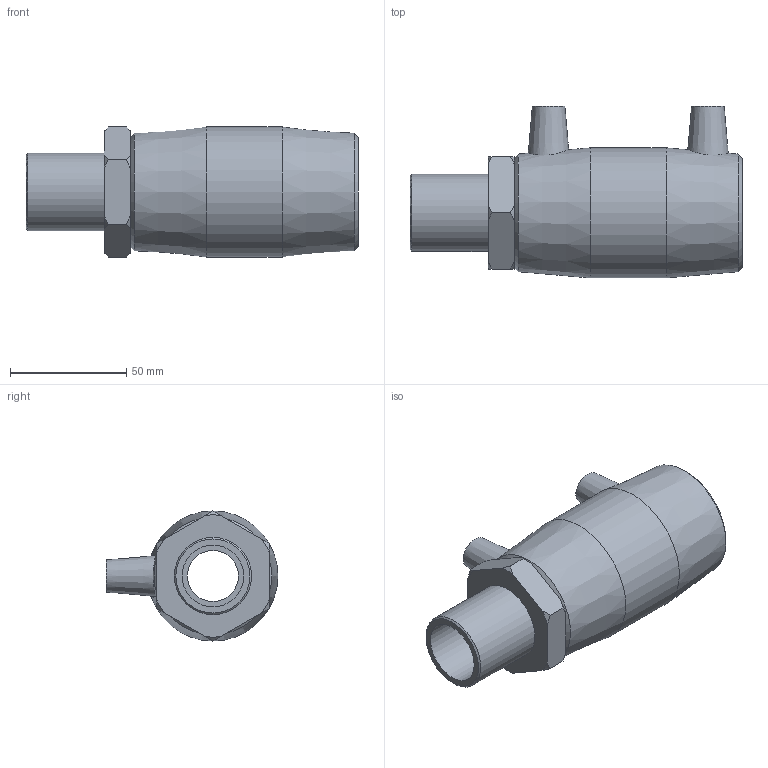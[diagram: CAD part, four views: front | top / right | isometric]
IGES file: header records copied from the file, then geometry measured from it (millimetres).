
Global section: file name: 492104040010N.ipt; native system: Autodesk Inventor 2015; preprocessor: unknown; author: KIM; date: 20200202.122311; units: millimetre
Bounding box: 143 x 74 x 56 mm (x, y, z)
Volume: 178785.6 mm3; surface area: 44766.1 mm2
Topology: 1 solids, 2 shells, 54 faces, 129 edges, 88 vertices
Faces by surface type: plane 21, cone 19, revolution 8, cylinder 6
Full cylindrical faces by diameter (mm): 4 x2, 33.249 x1, 40 x2, 56 x1
